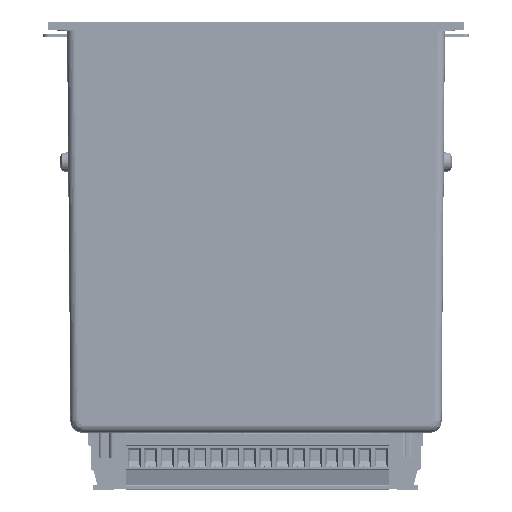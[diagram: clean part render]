
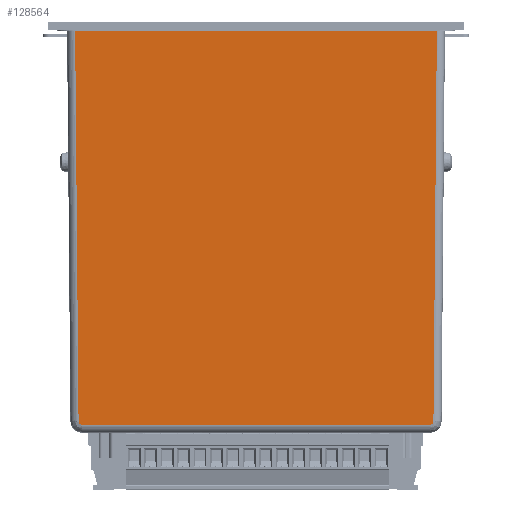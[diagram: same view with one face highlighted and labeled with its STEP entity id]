
A CAD part, front view. The second image highlights one B-rep face of the part: STEP entity #128564.
In plain terms, the highlighted planar face has unit normal (0, -1, -0.009).
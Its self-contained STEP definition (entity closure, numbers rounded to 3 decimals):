
#1785=ELLIPSE('',#138368,1.,1.);
#1786=ELLIPSE('',#138369,1.,1.);
#6510=PLANE('',#138527);
#13018=FACE_OUTER_BOUND('',#20753,.T.);
#20753=EDGE_LOOP('',(#102898,#102899,#102900,#102901,#102902,#102903));
#31806=LINE('',#204116,#44802);
#31887=LINE('',#205301,#44883);
#31901=LINE('',#205694,#44897);
#31902=LINE('',#205751,#44898);
#44802=VECTOR('',#163460,10.);
#44883=VECTOR('',#163893,10.);
#44897=VECTOR('',#163923,10.);
#44898=VECTOR('',#163934,10.);
#59600=VERTEX_POINT('',#204113);
#59601=VERTEX_POINT('',#204115);
#59669=VERTEX_POINT('',#205298);
#59670=VERTEX_POINT('',#205300);
#59673=VERTEX_POINT('',#205693);
#59674=VERTEX_POINT('',#205721);
#74606=EDGE_CURVE('',#59600,#59601,#31806,.T.);
#74777=EDGE_CURVE('',#59669,#59670,#31887,.T.);
#74794=EDGE_CURVE('',#59670,#59673,#31901,.T.);
#74797=EDGE_CURVE('',#59601,#59674,#1785,.T.);
#74798=EDGE_CURVE('',#59673,#59600,#1786,.T.);
#74799=EDGE_CURVE('',#59674,#59669,#31902,.T.);
#102898=ORIENTED_EDGE('',*,*,#74794,.F.);
#102899=ORIENTED_EDGE('',*,*,#74777,.F.);
#102900=ORIENTED_EDGE('',*,*,#74799,.F.);
#102901=ORIENTED_EDGE('',*,*,#74797,.F.);
#102902=ORIENTED_EDGE('',*,*,#74606,.F.);
#102903=ORIENTED_EDGE('',*,*,#74798,.F.);
#128564=ADVANCED_FACE('',(#13018),#6510,.T.);
#138368=AXIS2_PLACEMENT_3D('',#205723,#163928,#163929);
#138369=AXIS2_PLACEMENT_3D('',#205749,#163930,#163931);
#138527=AXIS2_PLACEMENT_3D('',#206647,#164318,#164319);
#163460=DIRECTION('',(-1.,0.,0.));
#163893=DIRECTION('',(1.,0.,0.));
#163923=DIRECTION('',(-0.009,0.009,-1.));
#163928=DIRECTION('center_axis',(0.,1.,0.009));
#163929=DIRECTION('ref_axis',(0.,0.009,
-1.));
#163930=DIRECTION('center_axis',(0.,1.,0.009));
#163931=DIRECTION('ref_axis',(0.,0.009,
-1.));
#163934=DIRECTION('',(-0.009,-0.009,1.));
#164318=DIRECTION('center_axis',(0.,-1.,-0.009));
#164319=DIRECTION('ref_axis',(1.,0.,0.));
#204113=CARTESIAN_POINT('',(53.748,-47.689,-3.522));
#204115=CARTESIAN_POINT('',(-53.748,-47.689,-3.522));
#204116=CARTESIAN_POINT('',(-29.15,-47.689,-3.522));
#205298=CARTESIAN_POINT('',(-55.8,-48.75,118.));
#205300=CARTESIAN_POINT('',(55.8,-48.75,118.));
#205301=CARTESIAN_POINT('',(-58.3,-48.75,118.));
#205693=CARTESIAN_POINT('',(54.748,-47.698,-2.531));
#205694=CARTESIAN_POINT('',(54.766,-47.716,-0.473));
#205721=CARTESIAN_POINT('',(-54.748,-47.698,-2.531));
#205723=CARTESIAN_POINT('Origin',(-53.748,-47.698,-2.522));
#205749=CARTESIAN_POINT('Origin',(53.748,-47.698,-2.522));
#205751=CARTESIAN_POINT('',(-54.767,-47.717,-0.39));
#206647=CARTESIAN_POINT('Origin',(-58.3,-47.72,0.004));
